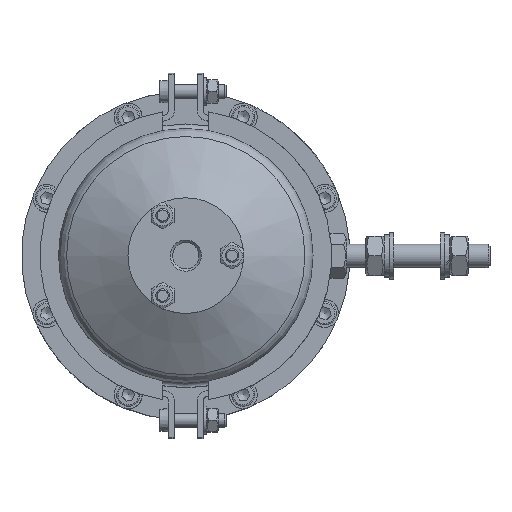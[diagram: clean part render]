
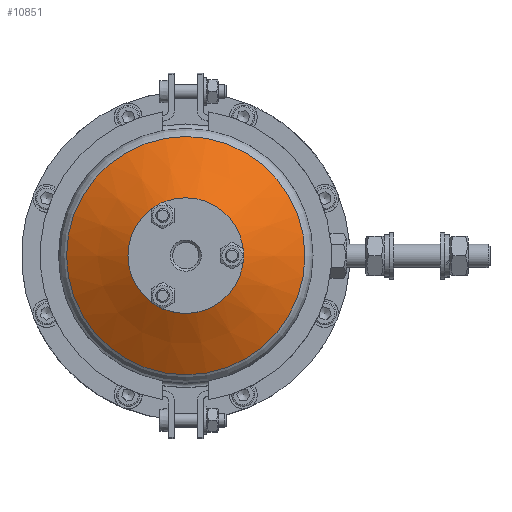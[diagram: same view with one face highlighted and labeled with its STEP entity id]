
A CAD part, top view. The second image highlights one B-rep face of the part: STEP entity #10851.
In plain terms, the highlighted conical face has half-angle 60 degrees and reference radius 40 mm.
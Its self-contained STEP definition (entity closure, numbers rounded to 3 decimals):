
#1711=FACE_BOUND($,#3413,.T.);
#2018=CONICAL_SURFACE($,#11994,40.,60.);
#2534=FACE_OUTER_BOUND($,#3412,.T.);
#3412=EDGE_LOOP($,(#8893));
#3413=EDGE_LOOP($,(#8894));
#4015=CIRCLE($,#11995,25.);
#4016=CIRCLE($,#11996,51.5);
#4932=VERTEX_POINT($,#18415);
#4933=VERTEX_POINT($,#18417);
#6289=EDGE_CURVE($,#4932,#4932,#4015,.T.);
#6290=EDGE_CURVE($,#4933,#4933,#4016,.T.);
#8893=ORIENTED_EDGE($,*,*,#6289,.F.);
#8894=ORIENTED_EDGE($,*,*,#6290,.F.);
#10851=ADVANCED_FACE($,(#2534,#1711),#2018,.T.);
#11994=AXIS2_PLACEMENT_3D($,#18414,#14676,#14677);
#11995=AXIS2_PLACEMENT_3D($,#18416,#14678,#14679);
#11996=AXIS2_PLACEMENT_3D($,#18418,#14680,#14681);
#14676=DIRECTION('center_axis',(0.,0.,-1.));
#14677=DIRECTION('ref_axis',(1.,0.,0.));
#14678=DIRECTION('center_axis',(0.,0.,1.));
#14679=DIRECTION('ref_axis',(1.,0.,0.));
#14680=DIRECTION('center_axis',(0.,0.,-1.));
#14681=DIRECTION('ref_axis',(-1.,0.,0.));
#18414=CARTESIAN_POINT('Origin',(0.,0.,62.34));
#18415=CARTESIAN_POINT('',(25.,0.,71.));
#18416=CARTESIAN_POINT('Origin',(0.,0.,71.));
#18417=CARTESIAN_POINT('',(51.5,0.,55.7));
#18418=CARTESIAN_POINT('Origin',(0.,0.,
55.7));
